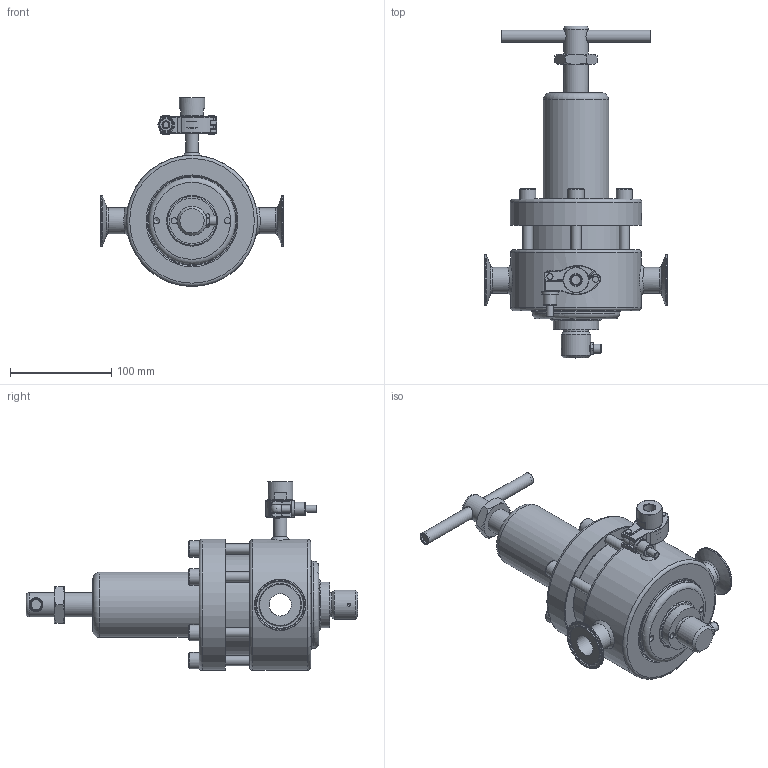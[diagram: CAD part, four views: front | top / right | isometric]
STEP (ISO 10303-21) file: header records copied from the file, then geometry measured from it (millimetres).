
FILE_DESCRIPTION(/* description */ (''),/* implementation_level */ '2;1');
FILE_NAME(/* name */ 'U:/AirCom-Produktdokumentation/Druckregler/RTC/Zeichnungen/CAD-Aircom/3D/B-RTC-08xM.step',/* time_stamp */ '2021-04-27T11:16:06+02:00',/* author */ (''),/* organization */ (''),/* preprocessor_version */ 'ST-DEVELOPER v18.1',/* originating_system */ 'Autodesk Translation Framework v10.6.0.1341',/* authorisation */ '');
FILE_SCHEMA (('AUTOMOTIVE_DESIGN { 1 0 10303 214 3 1 1 }'));
Length unit declared in the file: millimetre
Products named in the file (33): (Nicht gespeichert); C58235; C58235_Saldature; P20538; P37155; P37155_1; P37157_5; 0DC10620; 0DC10620_1; 0DC10620_2; 0DC10620_3; 0DC10620_4; 0DC10620_5; P37098; C43013; P43064; P30012; 0DN111; P31004; P26110; P34186; P34197; P34198; P28044; P38087_1; 0GEQ000001; 0PT3AT010_1; 0PT3AT010_VITE; 0PT3AT010_MORSA_2; 0PT3AT010_MORSA_1; 0PT3ATO10_DADO; 0PT3AT010_PERNO_1; 0PD3AT02G20
Assembly tree (33 placements, depth 3):
  (Nicht gespeichert)
    C58235
      C58235_Saldature
      P20538
      P37155
      P37155_1
      P37157_5
    0DC10620
    0DC10620_1
    0DC10620_2
    0DC10620_3
    0DC10620_4
    0DC10620_5
    P37098
    C43013
      P43064
      P30012
      0DN111
    P31004
    P26110
    P34186
    P34197
    P34198
    P28044
    P38087_1
    0GEQ000001
    0PT3AT010_1
      0PT3AT010_VITE
      0PT3AT010_MORSA_2
      0PT3AT010_MORSA_1
      0PT3ATO10_DADO
      0PT3AT010_PERNO_1  x2
    0PD3AT02G20
Bounding box: 180 x 327.37 x 186.35 mm (x, y, z)
Volume: 342953 mm3; surface area: 268411.2 mm2
Topology: 38 solids, 38 shells, 683 faces, 1604 edges, 985 vertices
Faces by surface type: cylinder 234, plane 189, torus 142, cone 65, sphere 27, bspline 26
Full cylindrical faces by diameter (mm): 3 x1, 5 x2, 5.2 x3, 6 x13, 6.9 x2, 8.376 x6, 8.566 x3, 9.278 x1, 9.3 x1, 9.4 x1, 9.5 x1, 10 x14, 10.5 x12, 11.445 x1, 12 x1, 12.2 x1, 12.7 x3, 13 x1, 15.9 x1, 16 x6, 19 x1, 21.835 x2, 21.9 x2, 22 x2, 22.1 x2, 24 x3, 25 x2, 25.4 x7, 29 x1, 45 x2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
Entity records: 25608 total; most frequent: CARTESIAN_POINT 8965, DIRECTION 3606, ORIENTED_EDGE 3120, AXIS2_PLACEMENT_3D 1563, EDGE_CURVE 1560, VERTEX_POINT 979, CIRCLE 841, EDGE_LOOP 795
